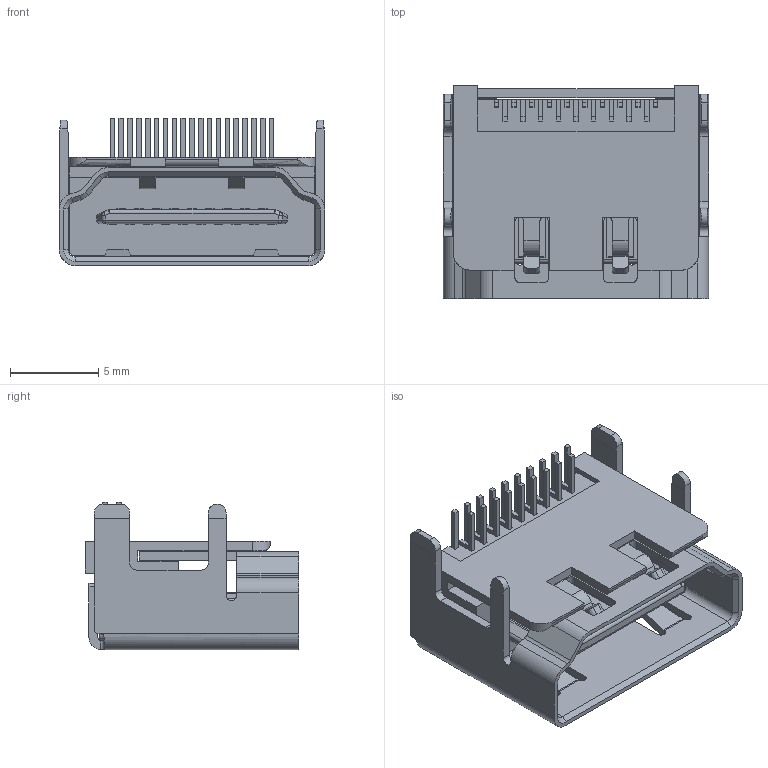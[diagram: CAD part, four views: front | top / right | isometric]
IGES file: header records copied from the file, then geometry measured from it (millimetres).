
Start section:  PTC IGES file: prt0001.igs
Global section: file name: prt0001.igs; native system: Pro/ENGINEER by Parametric Technology Corporation; preprocessor: 2008380; author: Administrator; organization: Unknown; date: 20161206.095632; units: millimetre
Bounding box: 15 x 12.05 x 8.33 mm (x, y, z)
Volume: 525 mm3; surface area: 1664.7 mm2
Topology: 2 solids, 2 shells, 649 faces, 1858 edges, 1173 vertices
Faces by surface type: bspline 527, revolution 122
